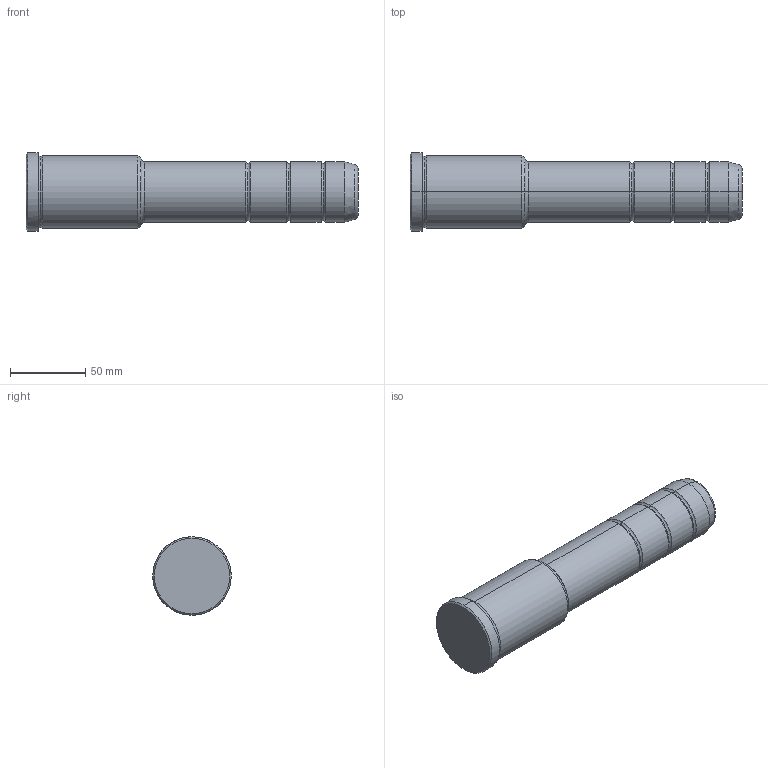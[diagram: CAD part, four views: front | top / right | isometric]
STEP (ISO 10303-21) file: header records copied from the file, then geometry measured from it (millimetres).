
FILE_DESCRIPTION(('CATIA V5 STEP Exchange'),'2;1');
FILE_NAME('C:\Users\Utente\Desktop\IO LAVORO\3D X SITO CF\X SITO\PLASTICA\351\351-40X76X220.stp','2021-10-07T14:29:37+00:00',('none'),('none'),'CATIA Version 5 Release 20 GA (IN-10)','CATIA V5 STEP AP203','none');
FILE_SCHEMA(('CONFIG_CONTROL_DESIGN'));
Length unit declared in the file: millimetre
Products named in the file (1): 351-40X76X220
Bounding box: 220 x 52 x 52 mm (x, y, z)
Volume: 318544.7 mm3; surface area: 33439.7 mm2
Topology: 1 solids, 1 shells, 42 faces, 118 edges, 80 vertices
Faces by surface type: torus 20, cylinder 12, cone 6, plane 4
Entity records: 1472 total; most frequent: CARTESIAN_POINT 353, ORIENTED_EDGE 236, DIRECTION 194, AXIS2_PLACEMENT_3D 135, EDGE_CURVE 118, CIRCLE 92, VERTEX_POINT 80, EDGE_LOOP 44
